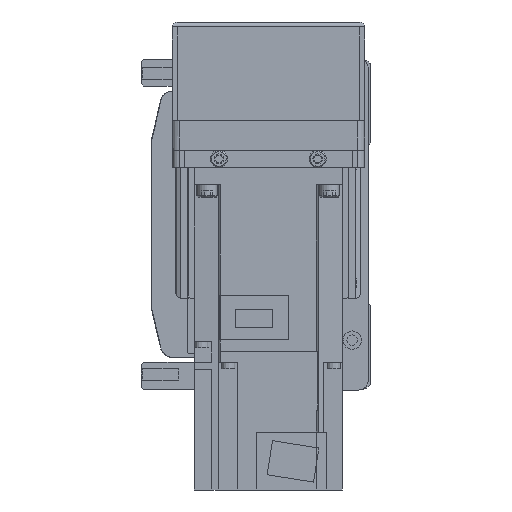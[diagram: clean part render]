
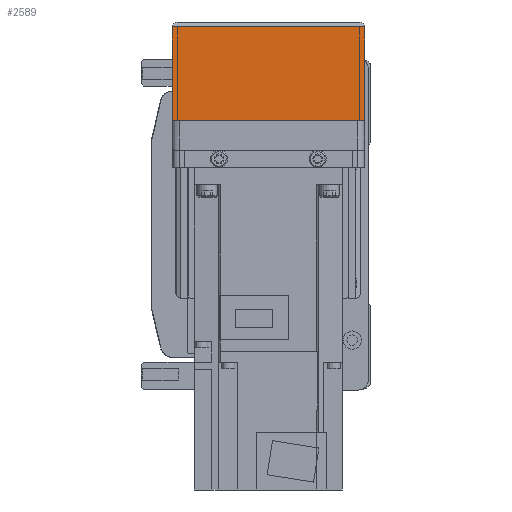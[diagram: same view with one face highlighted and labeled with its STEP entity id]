
A CAD part, left-side view. The second image highlights one B-rep face of the part: STEP entity #2589.
In plain terms, the highlighted planar face has unit normal (-1, 0, 0).
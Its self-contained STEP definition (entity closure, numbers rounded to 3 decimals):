
#2589 = ADVANCED_FACE( '', ( #5823 ), #5824, .F. );
#5823 = FACE_OUTER_BOUND( '', #9637, .T. );
#5824 = PLANE( '', #9638 );
#9637 = EDGE_LOOP( '', ( #16968, #16969, #16970, #16971 ) );
#9638 = AXIS2_PLACEMENT_3D( '', #16972, #16973, #16974 );
#16968 = ORIENTED_EDGE( '', *, *, #22196, .F. );
#16969 = ORIENTED_EDGE( '', *, *, #22813, .F. );
#16970 = ORIENTED_EDGE( '', *, *, #22248, .T. );
#16971 = ORIENTED_EDGE( '', *, *, #24086, .F. );
#16972 = CARTESIAN_POINT( '', ( -158., 36., 7. ) );
#16973 = DIRECTION( '', ( 1., 0., 0. ) );
#16974 = DIRECTION( '', ( 0., 0., -1. ) );
#22196 = EDGE_CURVE( '', #26809, #26811, #26812, .T. );
#22248 = EDGE_CURVE( '', #26891, #26896, #26898, .T. );
#22813 = EDGE_CURVE( '', #26891, #26809, #27811, .T. );
#24086 = EDGE_CURVE( '', #26811, #26896, #29657, .T. );
#26809 = VERTEX_POINT( '', #34124 );
#26811 = VERTEX_POINT( '', #34127 );
#26812 = LINE( '', #34128, #34129 );
#26891 = VERTEX_POINT( '', #34245 );
#26896 = VERTEX_POINT( '', #34251 );
#26898 = LINE( '', #34253, #34254 );
#27811 = LINE( '', #35652, #35653 );
#29657 = LINE( '', #38293, #38294 );
#34124 = CARTESIAN_POINT( '', ( -158., 39., -12.1 ) );
#34127 = CARTESIAN_POINT( '', ( -158., -39., -12.1 ) );
#34128 = CARTESIAN_POINT( '', ( -158., 50., -12.1 ) );
#34129 = VECTOR( '', #41171, 1000. );
#34245 = CARTESIAN_POINT( '', ( -158., 39., -50. ) );
#34251 = CARTESIAN_POINT( '', ( -158., -39., -50. ) );
#34253 = CARTESIAN_POINT( '', ( -158., 40., -50. ) );
#34254 = VECTOR( '', #41236, 1000. );
#35652 = CARTESIAN_POINT( '', ( -158., 39., -50. ) );
#35653 = VECTOR( '', #41943, 1000. );
#38293 = CARTESIAN_POINT( '', ( -158., -39., -12.1 ) );
#38294 = VECTOR( '', #43494, 1000. );
#41171 = DIRECTION( '', ( 0., -1., 0. ) );
#41236 = DIRECTION( '', ( 0., -1., 0. ) );
#41943 = DIRECTION( '', ( 0., 0., 1. ) );
#43494 = DIRECTION( '', ( 0., 0., -1. ) );
